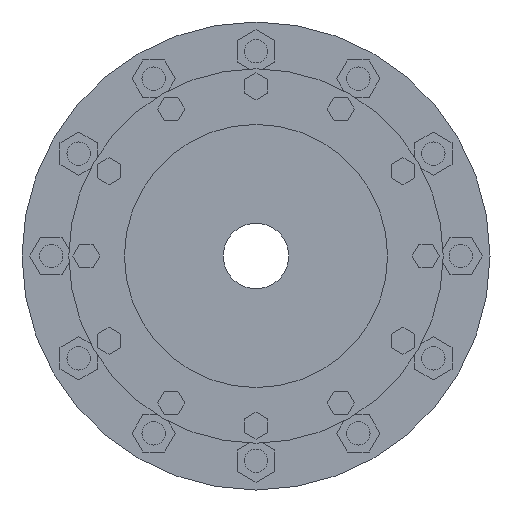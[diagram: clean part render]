
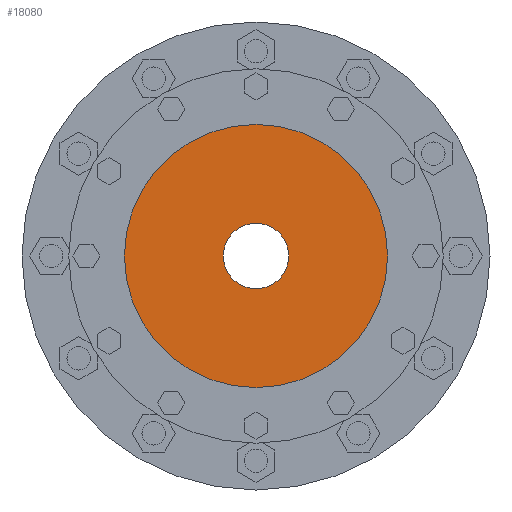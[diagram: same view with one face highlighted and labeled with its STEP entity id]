
A CAD part, left-side view. The second image highlights one B-rep face of the part: STEP entity #18080.
In plain terms, the highlighted planar face has unit normal (-1, 0, 0).
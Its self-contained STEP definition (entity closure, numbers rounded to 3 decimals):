
#17778=CARTESIAN_POINT('',(-184.5,0.,0.));
#17779=DIRECTION('',(1.,0.,0.));
#17780=DIRECTION('',(0.,1.,0.));
#17781=AXIS2_PLACEMENT_3D('',#17778,#17779,#17780);
#17857=CARTESIAN_POINT('',(-184.5,0.,0.));
#17858=DIRECTION('',(-1.,0.,0.));
#17859=DIRECTION('',(0.,1.,0.));
#17860=AXIS2_PLACEMENT_3D('',#17857,#17858,#17859);
#17862=CARTESIAN_POINT('',(-184.5,0.,0.));
#17863=DIRECTION('',(1.,0.,0.));
#17864=DIRECTION('',(0.,1.,0.));
#17865=AXIS2_PLACEMENT_3D('',#17862,#17863,#17864);
#17876=CARTESIAN_POINT('',(-184.5,0.,0.));
#17877=DIRECTION('',(-1.,0.,0.));
#17878=DIRECTION('',(0.,1.,0.));
#17879=AXIS2_PLACEMENT_3D('',#17876,#17877,#17878);
#17885=CARTESIAN_POINT('',(-184.5,14.,0.));
#17886=CARTESIAN_POINT('',(-184.5,-14.,0.));
#17887=VERTEX_POINT('',#17885);
#17888=VERTEX_POINT('',#17886);
#17889=CARTESIAN_POINT('',(-184.5,56.25,0.));
#17890=CARTESIAN_POINT('',(-184.5,-56.25,0.));
#17891=VERTEX_POINT('',#17889);
#17892=VERTEX_POINT('',#17890);
#18066=CARTESIAN_POINT('',(-184.5,0.,0.));
#18067=DIRECTION('',(1.,0.,0.));
#18068=DIRECTION('',(0.,-1.,0.));
#18069=AXIS2_PLACEMENT_3D('',#18066,#18067,#18068);
#18070=PLANE('',#18069);
#18071=ORIENTED_EDGE('',*,*,#18048,.F.);
#18072=ORIENTED_EDGE('',*,*,#18061,.T.);
#18073=EDGE_LOOP('',(#18071,#18072));
#18074=FACE_OUTER_BOUND('',#18073,.F.);
#18075=ORIENTED_EDGE('',*,*,#17926,.F.);
#18077=ORIENTED_EDGE('',*,*,#18076,.T.);
#18078=EDGE_LOOP('',(#18075,#18077));
#18079=FACE_BOUND('',#18078,.F.);
#18080=ADVANCED_FACE('',(#18074,#18079),#18070,.F.);
#17782=CIRCLE('',#17781,14.);
#17861=CIRCLE('',#17860,56.25);
#17866=CIRCLE('',#17865,56.25);
#17880=CIRCLE('',#17879,14.);
#17926=EDGE_CURVE('',#17887,#17888,#17782,.T.);
#18048=EDGE_CURVE('',#17891,#17892,#17861,.T.);
#18061=EDGE_CURVE('',#17891,#17892,#17866,.T.);
#18076=EDGE_CURVE('',#17887,#17888,#17880,.T.);
